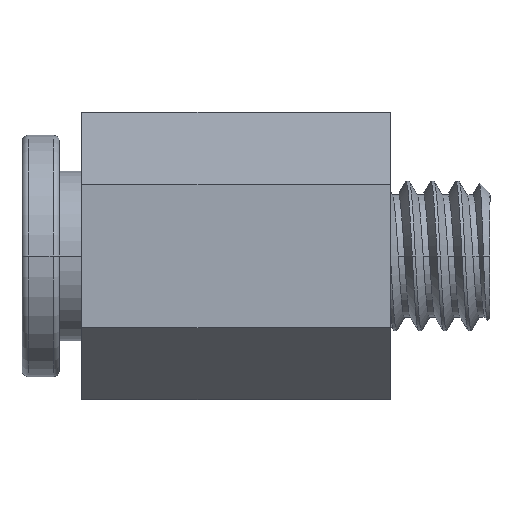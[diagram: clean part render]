
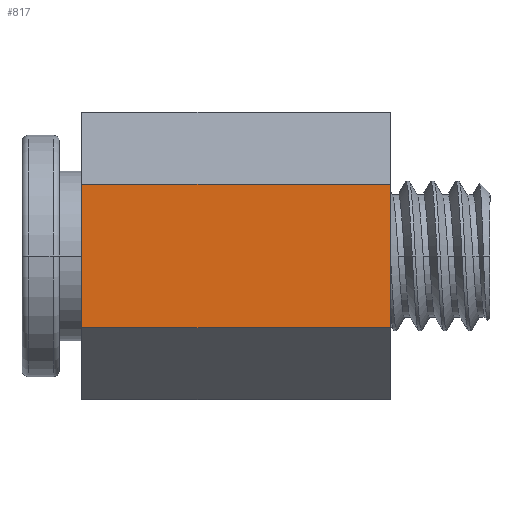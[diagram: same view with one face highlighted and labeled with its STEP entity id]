
A CAD part, left-side view. The second image highlights one B-rep face of the part: STEP entity #817.
In plain terms, the highlighted planar face has unit normal (-1, 0, 0).
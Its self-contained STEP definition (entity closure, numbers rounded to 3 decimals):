
#48 = ORIENTED_EDGE ( 'NONE', *, *, #260, .F. ) ;
#260 = EDGE_CURVE ( 'NONE', #1036, #2039, #1591, .T. ) ;
#267 = VERTEX_POINT ( 'NONE', #1759 ) ;
#451 = EDGE_CURVE ( 'NONE', #1036, #267, #1780, .T. ) ;
#494 = DIRECTION ( 'NONE',  ( 0., 0., 1. ) ) ;
#628 = CARTESIAN_POINT ( 'NONE',  ( -5., 12.4, -2.887 ) ) ;
#708 = ORIENTED_EDGE ( 'NONE', *, *, #1975, .T. ) ;
#817 = ADVANCED_FACE ( 'NONE', ( #2075 ), #1156, .F. ) ;
#952 = VERTEX_POINT ( 'NONE', #2228 ) ;
#981 = VECTOR ( 'NONE', #2028, 1000. ) ;
#1036 = VERTEX_POINT ( 'NONE', #628 ) ;
#1054 = AXIS2_PLACEMENT_3D ( 'NONE', #1378, #2254, #1931 ) ;
#1062 = CARTESIAN_POINT ( 'NONE',  ( -5., 27.675, 2.887 ) ) ;
#1100 = VECTOR ( 'NONE', #1998, 1000. ) ;
#1104 = CARTESIAN_POINT ( 'NONE',  ( -5., 0., -2.887 ) ) ;
#1156 = PLANE ( 'NONE',  #1054 ) ;
#1238 = LINE ( 'NONE', #1062, #1100 ) ;
#1291 = VECTOR ( 'NONE', #494, 1000. ) ;
#1312 = EDGE_LOOP ( 'NONE', ( #48, #2086, #708, #1815 ) ) ;
#1378 = CARTESIAN_POINT ( 'NONE',  ( -5., 27.675, -2.887 ) ) ;
#1591 = LINE ( 'NONE', #2324, #1291 ) ;
#1759 = CARTESIAN_POINT ( 'NONE',  ( -5., 0., -2.887 ) ) ;
#1780 = LINE ( 'NONE', #2352, #1946 ) ;
#1815 = ORIENTED_EDGE ( 'NONE', *, *, #2186, .F. ) ;
#1837 = CARTESIAN_POINT ( 'NONE',  ( -5., 12.4, 2.887 ) ) ;
#1850 = LINE ( 'NONE', #1104, #981 ) ;
#1931 = DIRECTION ( 'NONE',  ( 0., 0., -1. ) ) ;
#1946 = VECTOR ( 'NONE', #2151, 1000. ) ;
#1975 = EDGE_CURVE ( 'NONE', #267, #952, #1850, .T. ) ;
#1998 = DIRECTION ( 'NONE',  ( 0., -1., 0. ) ) ;
#2028 = DIRECTION ( 'NONE',  ( 0., 0., 1. ) ) ;
#2039 = VERTEX_POINT ( 'NONE', #1837 ) ;
#2075 = FACE_OUTER_BOUND ( 'NONE', #1312, .T. ) ;
#2086 = ORIENTED_EDGE ( 'NONE', *, *, #451, .T. ) ;
#2151 = DIRECTION ( 'NONE',  ( 0., -1., 0. ) ) ;
#2186 = EDGE_CURVE ( 'NONE', #2039, #952, #1238, .T. ) ;
#2228 = CARTESIAN_POINT ( 'NONE',  ( -5., 0., 2.887 ) ) ;
#2254 = DIRECTION ( 'NONE',  ( 1., 0., 0. ) ) ;
#2324 = CARTESIAN_POINT ( 'NONE',  ( -5., 12.4, -2.887 ) ) ;
#2352 = CARTESIAN_POINT ( 'NONE',  ( -5., 27.675, -2.887 ) ) ;
